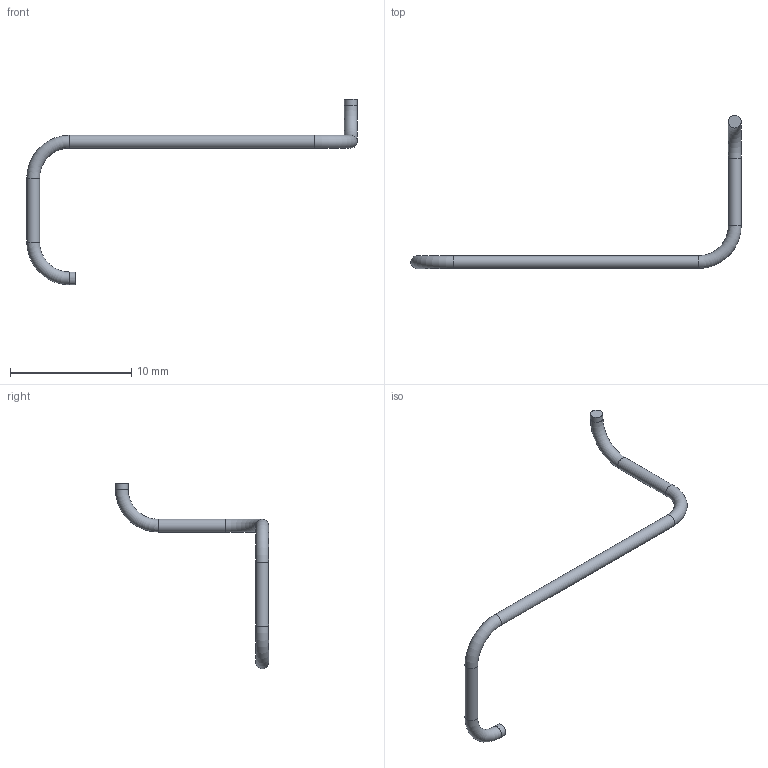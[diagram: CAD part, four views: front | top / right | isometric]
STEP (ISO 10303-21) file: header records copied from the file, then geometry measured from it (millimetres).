
FILE_DESCRIPTION(('Open CASCADE Model'),'2;1');
FILE_NAME('R36_J3_MIC_CK_PIGTAIL_5_OD1p05_R3','2026-09-15T14:09:12',( 'Author'),('Open CASCADE'),'Open CASCADE STEP processor 7.9', 'build123d','Unknown');
FILE_SCHEMA(('AUTOMOTIVE_DESIGN { 1 0 10303 214 1 1 1 1 }'));
Length unit declared in the file: millimetre
Products named in the file (1): R36_J3_MIC_CK_PIGTAIL_5_OD1p05_R3
Bounding box: 27.2 x 12.61 x 15.29 mm (x, y, z)
Volume: 44 mm3; surface area: 169.4 mm2
Topology: 1 solids, 1 shells, 11 faces, 19 edges, 10 vertices
Faces by surface type: cylinder 5, torus 4, plane 2
Full cylindrical faces by diameter (mm): 1.05 x5
Entity records: 503 total; most frequent: CARTESIAN_POINT 96, DIRECTION 78, ORIENTED_EDGE 38, PCURVE 38, DEFINITIONAL_REPRESENTATION 38, AXIS2_PLACEMENT_3D 26, LINE 24, VECTOR 24
